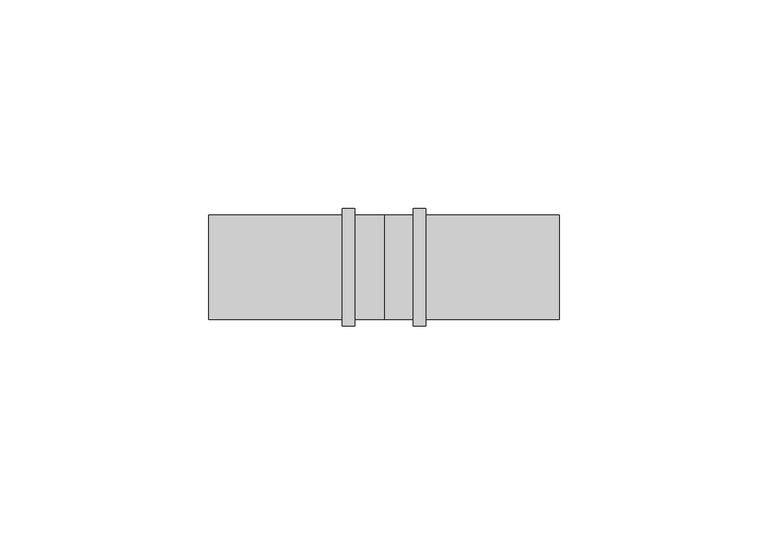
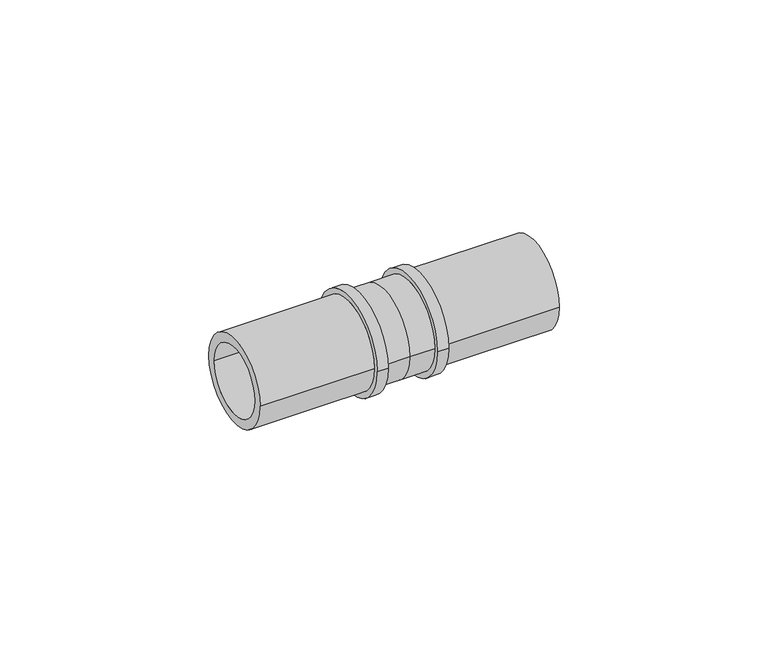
"""IFC4 building model written with IfcOpenShell, lengths in millimetres: pipe fitting geometry, FASTLOC_Coupling equal LX : FSL C LX PL."""

from ifc_helpers import new_model, si_unit, frame, origin, place, context, project, spatial, polyline, circle_curve, source, transform, mapped, element, save
from ifc_brep_helpers import plane_surface, cylinder_surface, revolved_surface, advanced_brep


def pipe_fitting_ccabc239(model_context):
    return source(origin(), model_context, "Body", "AdvancedBrep", [
        advanced_brep(
        [(10.0, 14.1, 0.0), (10.0, -14.1, 0.0), (7.0, -14.1, 0.0), (7.0, 14.1, 0.0), (42.0, 12.5, 0.0), (42.0, -12.5, 0.0), (10.0, -12.5, 0.0), (10.0, 12.5, 0.0), (-42.0, 9.85, 0.0), (-42.0, -9.85, 0.0), (42.0, -9.85, 0.0), (42.0, 9.85, 0.0), (-10.0, 12.5, 0.0), (-10.0, -12.5, 0.0), (-42.0, -12.5, 0.0), (-42.0, 12.5, 0.0), (-7.0, 14.1, 0.0), (-7.0, -14.1, 0.0), (-10.0, -14.1, 0.0), (-10.0, 14.1, 0.0), (0.0, 12.5, 0.0), (0.0, -12.5, 0.0), (-7.0, -12.5, 0.0), (-7.0, 12.5, 0.0), (7.0, 12.5, 0.0), (7.0, -12.5, 0.0)],
        [
            (0, 1, circle_curve(frame((10.0, 0.0, 0.0), z_axis=(-1.0, 0.0, 0.0), x_axis=(0.0, -1.0, 0.0)), 14.1)),
            (1, 2),
            (2, 3, circle_curve(frame((7.0, 0.0, 0.0), z_axis=(1.0, 0.0, 0.0), x_axis=(0.0, -1.0, 0.0)), 14.1)),
            (3, 0),
            (4, 5, circle_curve(frame((42.0, 0.0, 0.0), z_axis=(-1.0, 0.0, 0.0), x_axis=(0.0, -1.0, 0.0)), 12.5)),
            (5, 6),
            (6, 7, circle_curve(frame((10.0, 0.0, 0.0), z_axis=(1.0, 0.0, 0.0), x_axis=(0.0, -1.0, 0.0)), 12.5)),
            (7, 4),
            (8, 9, circle_curve(frame((-42.0, 0.0, 0.0), z_axis=(-1.0, 0.0, 0.0), x_axis=(0.0, -1.0, 0.0)), 9.85)),
            (9, 10),
            (10, 11, circle_curve(frame((42.0, 0.0, 0.0), z_axis=(1.0, 0.0, 0.0), x_axis=(0.0, -1.0, 0.0)), 9.85)),
            (11, 8),
            (12, 13, circle_curve(frame((-10.0, 0.0, 0.0), z_axis=(-1.0, 0.0, 0.0), x_axis=(0.0, -1.0, 0.0)), 12.5)),
            (13, 14),
            (14, 15, circle_curve(frame((-42.0, 0.0, 0.0), z_axis=(1.0, 0.0, 0.0), x_axis=(0.0, -1.0, 0.0)), 12.5)),
            (15, 12),
            (16, 17, circle_curve(frame((-7.0, 0.0, 0.0), z_axis=(-1.0, 0.0, 0.0), x_axis=(0.0, -1.0, 0.0)), 14.1)),
            (17, 18),
            (18, 19, circle_curve(frame((-10.0, 0.0, 0.0), z_axis=(1.0, 0.0, 0.0), x_axis=(0.0, -1.0, 0.0)), 14.1)),
            (19, 16),
            (20, 21, circle_curve(frame((0.0, 0.0, 0.0), z_axis=(-1.0, 0.0, 0.0), x_axis=(0.0, -1.0, 0.0)), 12.5)),
            (21, 22),
            (22, 23, circle_curve(frame((-7.0, 0.0, 0.0), z_axis=(1.0, 0.0, 0.0), x_axis=(0.0, -1.0, 0.0)), 12.5)),
            (23, 20),
            (24, 25, circle_curve(frame((7.0, 0.0, 0.0), z_axis=(-1.0, 0.0, 0.0), x_axis=(0.0, -1.0, 0.0)), 12.5)),
            (25, 21),
            (20, 24),
            (1, 0, circle_curve(frame((10.0, 0.0, 0.0), z_axis=(-1.0, 0.0, 0.0), x_axis=(0.0, 1.0, 0.0)), 14.1)),
            (3, 2, circle_curve(frame((7.0, 0.0, 0.0), z_axis=(1.0, 0.0, 0.0), x_axis=(0.0, 1.0, 0.0)), 14.1)),
            (6, 7, circle_curve(frame((10.0, 0.0, 0.0), z_axis=(-1.0, 0.0, 0.0), x_axis=(0.0, 1.0, 0.0)), 12.5)),
            (5, 4, circle_curve(frame((42.0, 0.0, 0.0), z_axis=(-1.0, 0.0, 0.0), x_axis=(0.0, 1.0, 0.0)), 12.5)),
            (10, 11, circle_curve(frame((42.0, 0.0, 0.0), z_axis=(-1.0, 0.0, 0.0), x_axis=(0.0, 1.0, 0.0)), 9.85)),
            (9, 8, circle_curve(frame((-42.0, 0.0, 0.0), z_axis=(-1.0, 0.0, 0.0), x_axis=(0.0, 1.0, 0.0)), 9.85)),
            (14, 15, circle_curve(frame((-42.0, 0.0, 0.0), z_axis=(-1.0, 0.0, 0.0), x_axis=(0.0, 1.0, 0.0)), 12.5)),
            (13, 12, circle_curve(frame((-10.0, 0.0, 0.0), z_axis=(-1.0, 0.0, 0.0), x_axis=(0.0, 1.0, 0.0)), 12.5)),
            (18, 19, circle_curve(frame((-10.0, 0.0, 0.0), z_axis=(-1.0, 0.0, 0.0), x_axis=(0.0, 1.0, 0.0)), 14.1)),
            (17, 16, circle_curve(frame((-7.0, 0.0, 0.0), z_axis=(-1.0, 0.0, 0.0), x_axis=(0.0, 1.0, 0.0)), 14.1)),
            (22, 23, circle_curve(frame((-7.0, 0.0, 0.0), z_axis=(-1.0, 0.0, 0.0), x_axis=(0.0, 1.0, 0.0)), 12.5)),
            (21, 20, circle_curve(frame((0.0, 0.0, 0.0), z_axis=(-1.0, 0.0, 0.0), x_axis=(0.0, 1.0, 0.0)), 12.5)),
            (25, 24, circle_curve(frame((7.0, 0.0, 0.0), z_axis=(-1.0, 0.0, 0.0), x_axis=(0.0, 1.0, 0.0)), 12.5)),
        ],
        [
            cylinder_surface(frame((0.0, 0.0, 0.0), z_axis=(1.0, 0.0, 0.0), x_axis=(0.0, -1.0, 0.0)), 14.1),
            cylinder_surface(frame((0.0, 0.0, 0.0), z_axis=(1.0, 0.0, 0.0), x_axis=(0.0, -1.0, 0.0)), 12.5),
            revolved_surface(polyline([(42.0, -9.85, 0.0), (-42.0, -9.85, 0.0)]), (0.0, 0.0, 0.0), (1.0, 0.0, 0.0)),
            cylinder_surface(frame((0.0, 0.0, 0.0), z_axis=(1.0, 0.0, 0.0), x_axis=(0.0, 1.0, 0.0)), 14.1),
            plane_surface(frame((10.0, 0.0, 0.0), z_axis=(1.0, 0.0, 0.0), x_axis=(0.0, 1.0, 0.0))),
            cylinder_surface(frame((0.0, 0.0, 0.0), z_axis=(1.0, 0.0, 0.0), x_axis=(0.0, 1.0, 0.0)), 12.5),
            plane_surface(frame((42.0, 0.0, 0.0), z_axis=(1.0, 0.0, 0.0), x_axis=(0.0, 1.0, 0.0))),
            revolved_surface(polyline([(42.0, 9.85, 0.0), (-42.0, 9.85, 0.0)]), (0.0, 0.0, 0.0), (1.0, 0.0, 0.0)),
            plane_surface(frame((-42.0, 0.0, 0.0), z_axis=(-1.0, 0.0, 0.0), x_axis=(0.0, 1.0, 0.0))),
            plane_surface(frame((-10.0, 0.0, 0.0), z_axis=(-1.0, 0.0, 0.0), x_axis=(0.0, 1.0, 0.0))),
            plane_surface(frame((-7.0, 0.0, 0.0), z_axis=(1.0, 0.0, 0.0), x_axis=(0.0, 1.0, 0.0))),
            plane_surface(frame((7.0, 0.0, 0.0), z_axis=(-1.0, 0.0, 0.0), x_axis=(0.0, 1.0, 0.0))),
        ],
        [
            (0, [[1, 2, 3, 4]]),
            (1, [[5, 6, 7, 8]]),
            (2, [[9, 10, 11, 12]]),
            (1, [[13, 14, 15, 16]]),
            (0, [[17, 18, 19, 20]]),
            (1, [[21, 22, 23, 24]]),
            (1, [[25, 26, -21, 27]]),
            (3, [[28, -4, 29, -2]]),
            (4, [[-28, -1], [30, -7]]),
            (5, [[31, -8, -30, -6]]),
            (6, [[-31, -5], [32, -11]]),
            (7, [[33, -12, -32, -10]]),
            (8, [[34, -15], [-33, -9]]),
            (5, [[35, -16, -34, -14]]),
            (9, [[36, -19], [-35, -13]]),
            (3, [[37, -20, -36, -18]]),
            (10, [[-37, -17], [38, -23]]),
            (5, [[39, -24, -38, -22]]),
            (5, [[40, -27, -39, -26]]),
            (11, [[-29, -3], [-40, -25]]),
        ],
    ),
    ])


if __name__ == "__main__":
    model = new_model("IFC4")
    model_context = context("Model", 3, world=origin())
    ifc_project = project(units=[si_unit("LENGTHUNIT", "METRE", prefix="MILLI")], contexts=[model_context])
    site = spatial("IfcSite", under=ifc_project)
    building = spatial("IfcBuilding", under=site)
    placement = place(None, origin())
    pipe_fitting_shape = pipe_fitting_ccabc239(model_context)
    element("IfcPipeFitting", 1, ObjectType="FASTLOC_Coupling equal LX : FSL C LX PL", at=placement, inside=building, context=model_context, shape_type="MappedRepresentation", body=[
        mapped(pipe_fitting_shape, transform((0.0, 0.0, 0.0), x_axis=(1.0, 0.0, 0.0), y_axis=(0.0, 1.0, 0.0), z_axis=(0.0, 0.0, 1.0))),
    ])
    save(model, "model.ifc")
